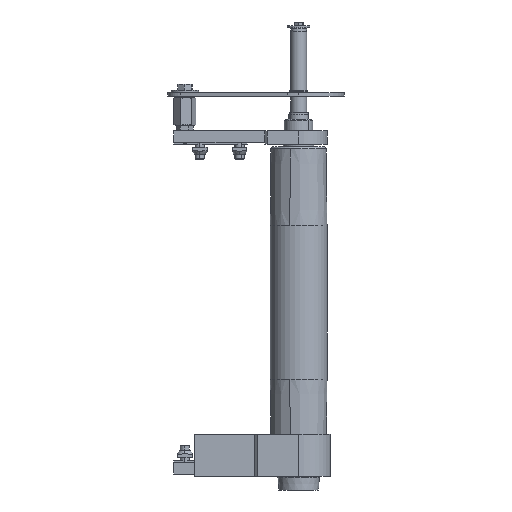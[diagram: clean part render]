
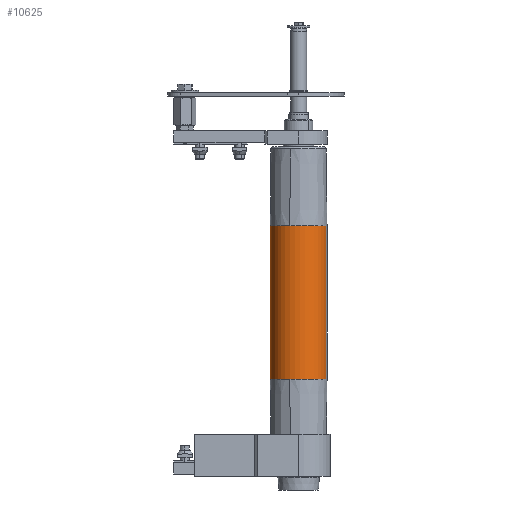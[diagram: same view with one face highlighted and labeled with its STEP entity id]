
A CAD part, front view. The second image highlights one B-rep face of the part: STEP entity #10625.
In plain terms, the highlighted cylindrical face has radius 25 mm (diameter 50 mm), a partial arc.
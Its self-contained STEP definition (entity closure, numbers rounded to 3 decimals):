
#30 = CARTESIAN_POINT ( 'NONE',  ( -67.5, 0., -25. ) ) ;
#247 = CARTESIAN_POINT ( 'NONE',  ( -67.5, 0., 0. ) ) ;
#355 = CARTESIAN_POINT ( 'NONE',  ( 67.5, 25., 0. ) ) ;
#587 = VERTEX_POINT ( 'NONE', #6309 ) ;
#738 = EDGE_LOOP ( 'NONE', ( #5478, #17539, #6109, #8222, #12341, #3272 ) ) ;
#886 = DIRECTION ( 'NONE',  ( 0., -1., 0. ) ) ;
#1420 = CARTESIAN_POINT ( 'NONE',  ( 135., 0., 25. ) ) ;
#1993 = FACE_OUTER_BOUND ( 'NONE', #738, .T. ) ;
#2501 = DIRECTION ( 'NONE',  ( -1., 0., 0. ) ) ;
#2777 = CIRCLE ( 'NONE', #16101, 25. ) ;
#3272 = ORIENTED_EDGE ( 'NONE', *, *, #18910, .F. ) ;
#4000 = DIRECTION ( 'NONE',  ( 0., -1., 0. ) ) ;
#4615 = CIRCLE ( 'NONE', #18622, 25. ) ;
#5478 = ORIENTED_EDGE ( 'NONE', *, *, #18776, .T. ) ;
#6109 = ORIENTED_EDGE ( 'NONE', *, *, #18117, .T. ) ;
#6309 = CARTESIAN_POINT ( 'NONE',  ( -67.5, 25., 0. ) ) ;
#6580 = EDGE_CURVE ( 'NONE', #20797, #18955, #2777, .T. ) ;
#7767 = CARTESIAN_POINT ( 'NONE',  ( 67.5, 0., 0. ) ) ;
#7814 = DIRECTION ( 'NONE',  ( 0., 0., 1. ) ) ;
#7830 = CYLINDRICAL_SURFACE ( 'NONE', #16192, 25. ) ;
#8222 = ORIENTED_EDGE ( 'NONE', *, *, #10820, .F. ) ;
#8587 = DIRECTION ( 'NONE',  ( -1., 0., 0. ) ) ;
#8768 = DIRECTION ( 'NONE',  ( -1., 0., 0. ) ) ;
#8843 = DIRECTION ( 'NONE',  ( 0., -1., 0. ) ) ;
#8884 = AXIS2_PLACEMENT_3D ( 'NONE', #9751, #22174, #886 ) ;
#9388 = DIRECTION ( 'NONE',  ( -1., 0., 0. ) ) ;
#9751 = CARTESIAN_POINT ( 'NONE',  ( -67.5, 0., 0. ) ) ;
#10397 = LINE ( 'NONE', #1420, #12586 ) ;
#10418 = VERTEX_POINT ( 'NONE', #10614 ) ;
#10614 = CARTESIAN_POINT ( 'NONE',  ( -67.5, 0., 25. ) ) ;
#10625 = ADVANCED_FACE ( 'NONE', ( #1993 ), #7830, .T. ) ;
#10671 = EDGE_CURVE ( 'NONE', #10418, #587, #17585, .T. ) ;
#10819 = DIRECTION ( 'NONE',  ( -1., 0., 0. ) ) ;
#10820 = EDGE_CURVE ( 'NONE', #587, #22624, #20634, .T. ) ;
#11899 = CARTESIAN_POINT ( 'NONE',  ( 67.5, 0., 25. ) ) ;
#12341 = ORIENTED_EDGE ( 'NONE', *, *, #10671, .F. ) ;
#12586 = VECTOR ( 'NONE', #8587, 1000. ) ;
#13080 = CARTESIAN_POINT ( 'NONE',  ( 135., 0., 0. ) ) ;
#13753 = VECTOR ( 'NONE', #10819, 1000. ) ;
#14376 = DIRECTION ( 'NONE',  ( 0., -1., 0. ) ) ;
#16101 = AXIS2_PLACEMENT_3D ( 'NONE', #21146, #8768, #8843 ) ;
#16192 = AXIS2_PLACEMENT_3D ( 'NONE', #13080, #2501, #7814 ) ;
#17539 = ORIENTED_EDGE ( 'NONE', *, *, #6580, .T. ) ;
#17546 = CARTESIAN_POINT ( 'NONE',  ( 67.5, 0., -25. ) ) ;
#17585 = CIRCLE ( 'NONE', #8884, 25. ) ;
#17931 = CARTESIAN_POINT ( 'NONE',  ( 135., 0., -25. ) ) ;
#18117 = EDGE_CURVE ( 'NONE', #18955, #22624, #21556, .T. ) ;
#18431 = VERTEX_POINT ( 'NONE', #11899 ) ;
#18622 = AXIS2_PLACEMENT_3D ( 'NONE', #7767, #9388, #4000 ) ;
#18776 = EDGE_CURVE ( 'NONE', #18431, #20797, #4615, .T. ) ;
#18910 = EDGE_CURVE ( 'NONE', #18431, #10418, #10397, .T. ) ;
#18955 = VERTEX_POINT ( 'NONE', #17546 ) ;
#19633 = AXIS2_PLACEMENT_3D ( 'NONE', #247, #19754, #14376 ) ;
#19754 = DIRECTION ( 'NONE',  ( -1., 0., 0. ) ) ;
#20634 = CIRCLE ( 'NONE', #19633, 25. ) ;
#20797 = VERTEX_POINT ( 'NONE', #355 ) ;
#21146 = CARTESIAN_POINT ( 'NONE',  ( 67.5, 0., 0. ) ) ;
#21556 = LINE ( 'NONE', #17931, #13753 ) ;
#22174 = DIRECTION ( 'NONE',  ( -1., 0., 0. ) ) ;
#22624 = VERTEX_POINT ( 'NONE', #30 ) ;
